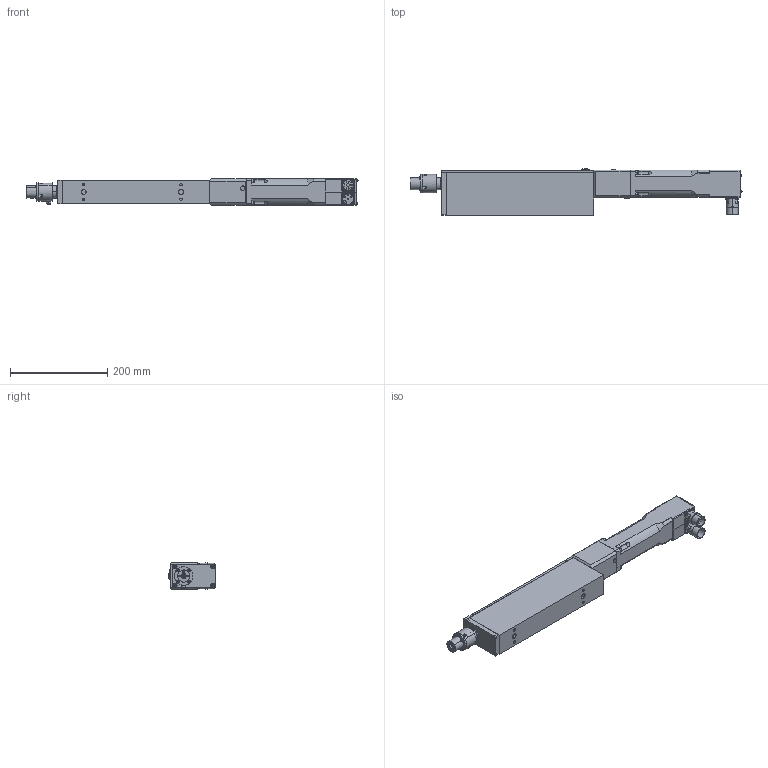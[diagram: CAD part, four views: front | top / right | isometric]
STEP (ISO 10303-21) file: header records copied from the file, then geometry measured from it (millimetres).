
FILE_DESCRIPTION (( 'STEP AP203' ), '1' );
FILE_NAME ('KM PR5ID010-020-030H.STEP', '2021-02-19T10:11:38', ( '' ), ( '' ), 'SwSTEP 2.0', 'SolidWorks 2016', '' );
FILE_SCHEMA (( 'CONFIG_CONTROL_DESIGN' ));
Products named in the file (2): KM PR5ID010-020-030H
Bounding box: 682.09 x 95.58 x 55 mm (x, y, z)
Volume: 1999042 mm3; surface area: 379237 mm2
Topology: 30 solids, 42 shells, 2243 faces, 5248 edges, 3122 vertices
Faces by surface type: plane 1033, cylinder 636, cone 426, bspline 87, torus 48, sphere 13
Entity records: 66624 total; most frequent: CARTESIAN_POINT 16269, DIRECTION 10678, ORIENTED_EDGE 10136, EDGE_CURVE 5068, AXIS2_PLACEMENT_3D 4105, VERTEX_POINT 3109, EDGE_LOOP 2571, LINE 2468
